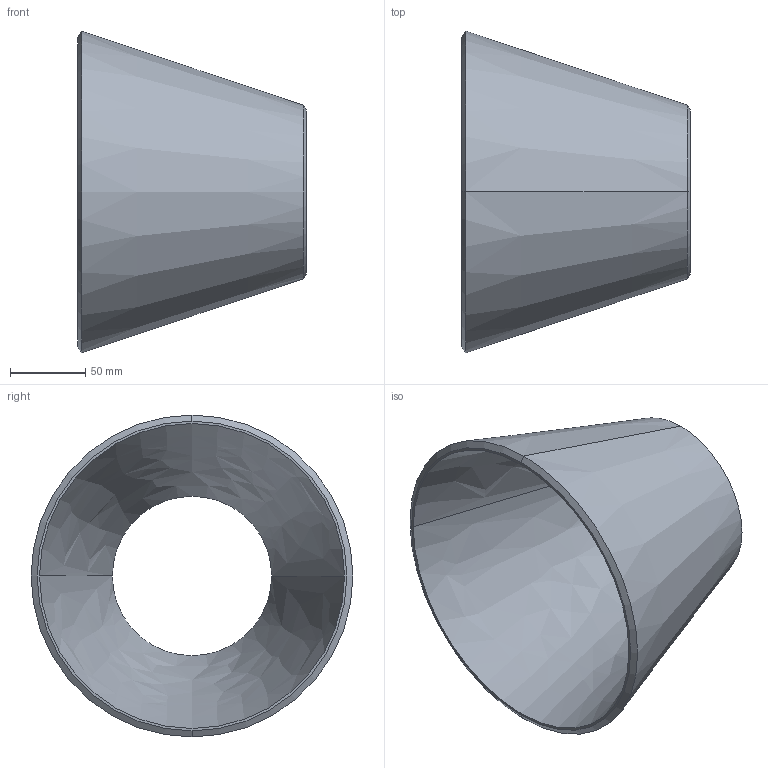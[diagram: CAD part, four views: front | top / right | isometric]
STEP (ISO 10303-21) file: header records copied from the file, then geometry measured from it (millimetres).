
FILE_DESCRIPTION (( 'STEP AP214' ), '1' );
FILE_NAME ('Concentric-reducer(2)_Sch20S-200Ax100A.STEP', '2022-06-30T02:36:04', ( 'ASIS User' ), ( 'ASIS User' ), 'SwSTEP 2.0', 'SolidWorks 2022', '' );
FILE_SCHEMA (( 'AUTOMOTIVE_DESIGN' ));
Length unit declared in the file: millimetre
Products named in the file (1): Concentric-reducer(2)_Sch20S-200Ax100A
Bounding box: 152.4 x 214.58 x 214.58 mm (x, y, z)
Volume: 406188.4 mm3; surface area: 164678.1 mm2
Topology: 1 solids, 1 shells, 10 faces, 20 edges, 12 vertices
Faces by surface type: cone 6, bspline 2, plane 2
Entity records: 504 total; most frequent: CARTESIAN_POINT 255, DIRECTION 48, ORIENTED_EDGE 40, AXIS2_PLACEMENT_3D 21, EDGE_CURVE 20, CIRCLE 12, VERTEX_POINT 12, EDGE_LOOP 12
